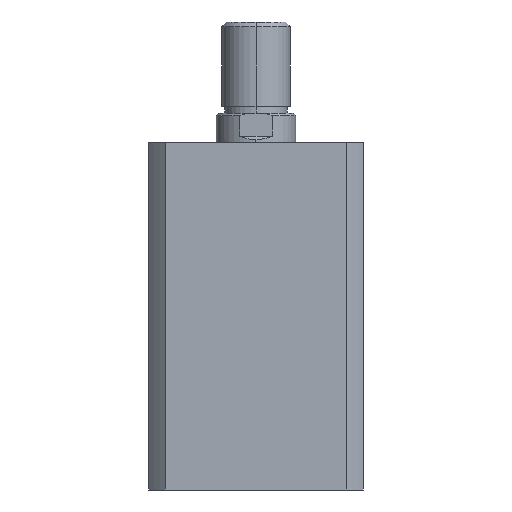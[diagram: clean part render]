
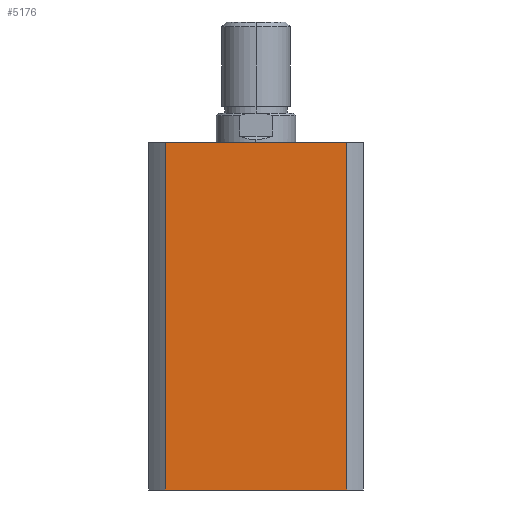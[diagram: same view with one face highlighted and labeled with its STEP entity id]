
A CAD part, left-side view. The second image highlights one B-rep face of the part: STEP entity #5176.
In plain terms, the highlighted planar face has unit normal (-1, 0, 0).
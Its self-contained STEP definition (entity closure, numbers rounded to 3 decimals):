
#779 = DIRECTION ( 'NONE',  ( 0., -1., 0. ) ) ;
#784 = CARTESIAN_POINT ( 'NONE',  ( -47., 0., 152. ) ) ;
#957 = LINE ( 'NONE', #784, #959 ) ;
#959 = VECTOR ( 'NONE', #779, 1000. ) ;
#997 = LINE ( 'NONE', #2940, #1003 ) ;
#999 = LINE ( 'NONE', #4320, #1001 ) ;
#1001 = VECTOR ( 'NONE', #4313, 1000. ) ;
#1002 = LINE ( 'NONE', #2946, #1005 ) ;
#1003 = VECTOR ( 'NONE', #2945, 1000. ) ;
#1005 = VECTOR ( 'NONE', #2948, 1000. ) ;
#1284 = FACE_OUTER_BOUND ( 'NONE', #1477, .T. ) ;
#1477 = EDGE_LOOP ( 'NONE', ( #2896, #4861, #4862, #4863 ) ) ;
#1591 = VERTEX_POINT ( 'NONE', #4945 ) ;
#1592 = VERTEX_POINT ( 'NONE', #4946 ) ;
#1612 = VERTEX_POINT ( 'NONE', #4966 ) ;
#1613 = VERTEX_POINT ( 'NONE', #4967 ) ;
#2551 = AXIS2_PLACEMENT_3D ( 'NONE', #3328, #3329, #3330 ) ;
#2804 = EDGE_CURVE ( 'NONE', #1591, #1592, #957, .T. ) ;
#2837 = EDGE_CURVE ( 'NONE', #1591, #1612, #999, .T. ) ;
#2838 = EDGE_CURVE ( 'NONE', #1612, #1613, #997, .T. ) ;
#2839 = EDGE_CURVE ( 'NONE', #1592, #1613, #1002, .T. ) ;
#2896 = ORIENTED_EDGE ( 'NONE', *, *, #2838, .T. ) ;
#2940 = CARTESIAN_POINT ( 'NONE',  ( -47., 0., 0. ) ) ;
#2945 = DIRECTION ( 'NONE',  ( 0., -1., 0. ) ) ;
#2946 = CARTESIAN_POINT ( 'NONE',  ( -47., -39.664, 152. ) ) ;
#2948 = DIRECTION ( 'NONE',  ( 0., 0., -1. ) ) ;
#3327 = PLANE ( 'NONE',  #2551 ) ;
#3328 = CARTESIAN_POINT ( 'NONE',  ( -47., 0., 152. ) ) ;
#3329 = DIRECTION ( 'NONE',  ( 1., 0., 0. ) ) ;
#3330 = DIRECTION ( 'NONE',  ( 0., 0., -1. ) ) ;
#4313 = DIRECTION ( 'NONE',  ( 0., 0., -1. ) ) ;
#4320 = CARTESIAN_POINT ( 'NONE',  ( -47., 39.664, 152. ) ) ;
#4861 = ORIENTED_EDGE ( 'NONE', *, *, #2839, .F. ) ;
#4862 = ORIENTED_EDGE ( 'NONE', *, *, #2804, .F. ) ;
#4863 = ORIENTED_EDGE ( 'NONE', *, *, #2837, .T. ) ;
#4945 = CARTESIAN_POINT ( 'NONE',  ( -47., 39.664, 152. ) ) ;
#4946 = CARTESIAN_POINT ( 'NONE',  ( -47., -39.664, 152. ) ) ;
#4966 = CARTESIAN_POINT ( 'NONE',  ( -47., 39.664, 0. ) ) ;
#4967 = CARTESIAN_POINT ( 'NONE',  ( -47., -39.664, 0. ) ) ;
#5176 = ADVANCED_FACE ( 'NONE', ( #1284 ), #3327, .F. ) ;
